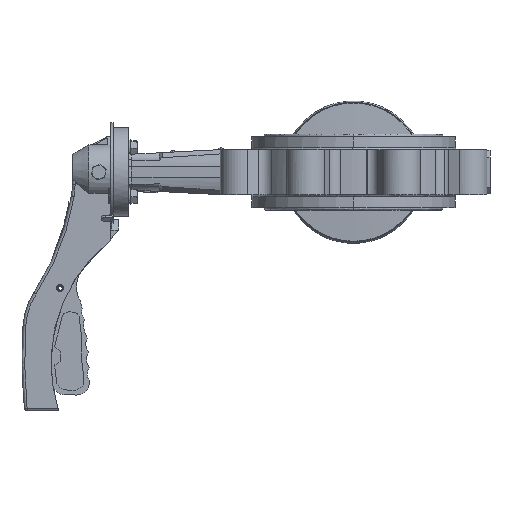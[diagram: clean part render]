
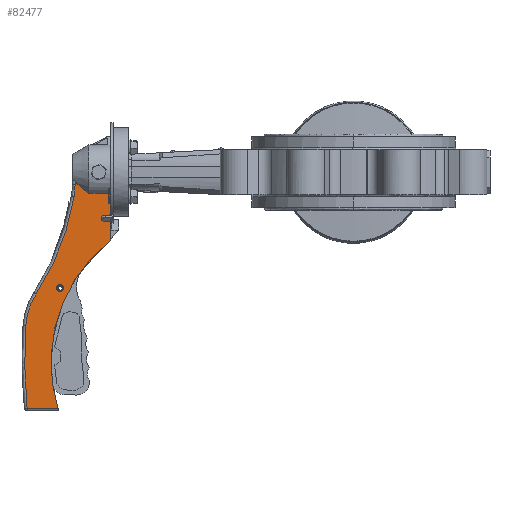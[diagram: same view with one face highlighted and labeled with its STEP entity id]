
A CAD part, left-side view. The second image highlights one B-rep face of the part: STEP entity #82477.
In plain terms, the highlighted planar face has unit normal (-1, 0, 0).
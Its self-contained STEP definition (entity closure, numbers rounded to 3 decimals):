
#241 = CARTESIAN_POINT ( 'NONE',  ( -12.5, 204.004, 0. ) ) ;
#1449 = ORIENTED_EDGE ( 'NONE', *, *, #72360, .F. ) ;
#1905 = CARTESIAN_POINT ( 'NONE',  ( -12.5, 240.187, -112.384 ) ) ;
#4798 = LINE ( 'NONE', #11954, #12901 ) ;
#6781 = DIRECTION ( 'NONE',  ( 0., 0., -1. ) ) ;
#7497 = CARTESIAN_POINT ( 'NONE',  ( -12.5, 204.004, -6.661 ) ) ;
#7648 = CARTESIAN_POINT ( 'NONE',  ( -12.5, 204.004, -12.052 ) ) ;
#7914 = CARTESIAN_POINT ( 'NONE',  ( -12.5, 194., -15.612 ) ) ;
#8056 = AXIS2_PLACEMENT_3D ( 'NONE', #76751, #51981, #57484 ) ;
#9794 = EDGE_CURVE ( 'NONE', #44725, #19528, #31223, .T. ) ;
#10884 = DIRECTION ( 'NONE',  ( -1., 0., 0. ) ) ;
#10993 = CARTESIAN_POINT ( 'NONE',  ( -12.5, 237.05, -96.229 ) ) ;
#11096 = VERTEX_POINT ( 'NONE', #77837 ) ;
#11354 = B_SPLINE_CURVE_WITH_KNOTS ( 'NONE', 3,
 ( #7497, #33170, #40748, #28119, #58824, #33580, #39910, #7914 ),
 .UNSPECIFIED., .F., .F.,
 ( 4, 2, 2, 4 ),
 ( 0., 0.003, 0.007, 0.013 ),
 .UNSPECIFIED. ) ;
#11954 = CARTESIAN_POINT ( 'NONE',  ( -12.5, 178., -173. ) ) ;
#12901 = VECTOR ( 'NONE', #70402, 1000. ) ;
#14479 = EDGE_CURVE ( 'NONE', #40388, #58737, #78111, .T. ) ;
#14755 = EDGE_CURVE ( 'NONE', #48125, #73142, #74120, .T. ) ;
#14857 = CARTESIAN_POINT ( 'NONE',  ( -12.5, 232.529, -89.273 ) ) ;
#15911 =( BOUNDED_CURVE ( )  B_SPLINE_CURVE ( 3, ( #44554, #26860, #76874, #79767 ),
 .UNSPECIFIED., .F., .F. ) 
 B_SPLINE_CURVE_WITH_KNOTS ( ( 4, 4 ),
 ( 0., 1. ),
 .UNSPECIFIED. ) 
 CURVE ( )  GEOMETRIC_REPRESENTATION_ITEM ( )  RATIONAL_B_SPLINE_CURVE ( ( 1., 0.998, 0.998, 1. ) ) 
 REPRESENTATION_ITEM ( '' )  );
#16128 = VERTEX_POINT ( 'NONE', #67394 ) ;
#16702 = ORIENTED_EDGE ( 'NONE', *, *, #26740, .F. ) ;
#17369 = CIRCLE ( 'NONE', #8056, 2.5 ) ;
#17683 = FACE_OUTER_BOUND ( 'NONE', #28092, .T. ) ;
#18938 = LINE ( 'NONE', #32035, #58793 ) ;
#19528 = VERTEX_POINT ( 'NONE', #72600 ) ;
#21761 = CARTESIAN_POINT ( 'NONE',  ( -12.5, 217.51, -85. ) ) ;
#22129 = EDGE_CURVE ( 'NONE', #16128, #34975, #15911, .T. ) ;
#23188 = DIRECTION ( 'NONE',  ( 1., 0., 0. ) ) ;
#24017 = DIRECTION ( 'NONE',  ( 0., -1., 0. ) ) ;
#25788 = VERTEX_POINT ( 'NONE', #70597 ) ;
#26166 = ORIENTED_EDGE ( 'NONE', *, *, #14479, .T. ) ;
#26740 = EDGE_CURVE ( 'NONE', #34975, #44725, #55236, .T. ) ;
#26860 = CARTESIAN_POINT ( 'NONE',  ( -12.5, 241.139, -152.843 ) ) ;
#27963 = ORIENTED_EDGE ( 'NONE', *, *, #14755, .F. ) ;
#28092 = EDGE_LOOP ( 'NONE', ( #50850, #50389, #59736, #69077, #34982, #76105, #16702, #44227, #48184, #26166 ) ) ;
#28119 = CARTESIAN_POINT ( 'NONE',  ( -12.5, 200.932, -9.938 ) ) ;
#28247 = CARTESIAN_POINT ( 'NONE',  ( -12.5, 194., -15.612 ) ) ;
#30961 = EDGE_LOOP ( 'NONE', ( #27963, #1449 ) ) ;
#31223 =( BOUNDED_CURVE ( )  B_SPLINE_CURVE ( 3, ( #45608, #50698, #32983, #43969 ),
 .UNSPECIFIED., .F., .F. ) 
 B_SPLINE_CURVE_WITH_KNOTS ( ( 4, 4 ),
 ( 0., 1. ),
 .UNSPECIFIED. ) 
 CURVE ( )  GEOMETRIC_REPRESENTATION_ITEM ( )  RATIONAL_B_SPLINE_CURVE ( ( 1., 0.986, 0.986, 1. ) ) 
 REPRESENTATION_ITEM ( '' )  );
#32035 = CARTESIAN_POINT ( 'NONE',  ( -12.5, 413.049, -15.612 ) ) ;
#32853 = DIRECTION ( 'NONE',  ( 1., 0., 0. ) ) ;
#32904 = CARTESIAN_POINT ( 'NONE',  ( -12.5, 204.714, -17.741 ) ) ;
#32983 = CARTESIAN_POINT ( 'NONE',  ( -12.5, 208.985, -43.334 ) ) ;
#33170 = CARTESIAN_POINT ( 'NONE',  ( -12.5, 203.293, -7.544 ) ) ;
#33496 = DIRECTION ( 'NONE',  ( 0., 0., 1. ) ) ;
#33580 = CARTESIAN_POINT ( 'NONE',  ( -12.5, 197.565, -12.886 ) ) ;
#34975 = VERTEX_POINT ( 'NONE', #1905 ) ;
#34982 = ORIENTED_EDGE ( 'NONE', *, *, #39985, .F. ) ;
#36668 = CARTESIAN_POINT ( 'NONE',  ( -12.5, 232.529, -89.273 ) ) ;
#37099 = PLANE ( 'NONE',  #39867 ) ;
#38761 = LINE ( 'NONE', #71133, #68197 ) ;
#39867 = AXIS2_PLACEMENT_3D ( 'NONE', #45481, #32853, #44666 ) ;
#39910 = CARTESIAN_POINT ( 'NONE',  ( -12.5, 195.799, -14.268 ) ) ;
#39985 = EDGE_CURVE ( 'NONE', #19528, #11096, #67486, .T. ) ;
#40388 = VERTEX_POINT ( 'NONE', #65790 ) ;
#40748 = CARTESIAN_POINT ( 'NONE',  ( -12.5, 202.526, -8.364 ) ) ;
#43969 = CARTESIAN_POINT ( 'NONE',  ( -12.5, 204.714, -17.741 ) ) ;
#44227 = ORIENTED_EDGE ( 'NONE', *, *, #22129, .F. ) ;
#44554 = CARTESIAN_POINT ( 'NONE',  ( -12.5, 239.189, -173. ) ) ;
#44666 = DIRECTION ( 'NONE',  ( 0., -1., 0. ) ) ;
#44725 = VERTEX_POINT ( 'NONE', #14857 ) ;
#45051 = VERTEX_POINT ( 'NONE', #28247 ) ;
#45481 = CARTESIAN_POINT ( 'NONE',  ( -12.5, 178., 0. ) ) ;
#45608 = CARTESIAN_POINT ( 'NONE',  ( -12.5, 232.529, -89.273 ) ) ;
#47683 = VERTEX_POINT ( 'NONE', #50929 ) ;
#48125 = VERTEX_POINT ( 'NONE', #59628 ) ;
#48184 = ORIENTED_EDGE ( 'NONE', *, *, #55417, .F. ) ;
#50389 = ORIENTED_EDGE ( 'NONE', *, *, #66827, .F. ) ;
#50698 = CARTESIAN_POINT ( 'NONE',  ( -12.5, 218.388, -67.518 ) ) ;
#50850 = ORIENTED_EDGE ( 'NONE', *, *, #83026, .F. ) ;
#50929 = CARTESIAN_POINT ( 'NONE',  ( -12.5, 178., -15.612 ) ) ;
#51981 = DIRECTION ( 'NONE',  ( -1., 0., 0. ) ) ;
#52418 = LINE ( 'NONE', #241, #79535 ) ;
#55236 =( BOUNDED_CURVE ( )  B_SPLINE_CURVE ( 3, ( #56860, #68627, #10993, #36668 ),
 .UNSPECIFIED., .F., .F. ) 
 B_SPLINE_CURVE_WITH_KNOTS ( ( 4, 4 ),
 ( 0., 1. ),
 .UNSPECIFIED. ) 
 CURVE ( )  GEOMETRIC_REPRESENTATION_ITEM ( )  RATIONAL_B_SPLINE_CURVE ( ( 1., 0.978, 0.978, 1. ) ) 
 REPRESENTATION_ITEM ( '' )  );
#55417 = EDGE_CURVE ( 'NONE', #40388, #16128, #4798, .T. ) ;
#56420 = DIRECTION ( 'NONE',  ( 0., -1., 0. ) ) ;
#56860 = CARTESIAN_POINT ( 'NONE',  ( -12.5, 240.187, -112.384 ) ) ;
#57484 = DIRECTION ( 'NONE',  ( 0., -1., 0. ) ) ;
#58556 = CARTESIAN_POINT ( 'NONE',  ( -12.5, 204.241, -14.911 ) ) ;
#58737 = VERTEX_POINT ( 'NONE', #78803 ) ;
#58793 = VECTOR ( 'NONE', #24017, 1000. ) ;
#58824 = CARTESIAN_POINT ( 'NONE',  ( -12.5, 200.104, -10.691 ) ) ;
#58979 = CARTESIAN_POINT ( 'NONE',  ( -12.5, 204.004, -9.182 ) ) ;
#59628 = CARTESIAN_POINT ( 'NONE',  ( -12.5, 212.51, -85. ) ) ;
#59736 = ORIENTED_EDGE ( 'NONE', *, *, #79094, .F. ) ;
#60430 = EDGE_CURVE ( 'NONE', #11096, #25788, #52418, .T. ) ;
#64744 = AXIS2_PLACEMENT_3D ( 'NONE', #81092, #10884, #75206 ) ;
#65790 = CARTESIAN_POINT ( 'NONE',  ( -12.5, 216.638, -173. ) ) ;
#66827 = EDGE_CURVE ( 'NONE', #45051, #47683, #18938, .T. ) ;
#67394 = CARTESIAN_POINT ( 'NONE',  ( -12.5, 239.189, -173. ) ) ;
#67486 =( BOUNDED_CURVE ( )  B_SPLINE_CURVE ( 3, ( #32904, #58556, #7648, #58979 ),
 .UNSPECIFIED., .F., .F. ) 
 B_SPLINE_CURVE_WITH_KNOTS ( ( 4, 4 ),
 ( 0., 1. ),
 .UNSPECIFIED. ) 
 CURVE ( )  GEOMETRIC_REPRESENTATION_ITEM ( )  RATIONAL_B_SPLINE_CURVE ( ( 1., 0.998, 0.998, 1. ) ) 
 REPRESENTATION_ITEM ( '' )  );
#68197 = VECTOR ( 'NONE', #6781, 1000. ) ;
#68627 = CARTESIAN_POINT ( 'NONE',  ( -12.5, 239.66, -104.104 ) ) ;
#69077 = ORIENTED_EDGE ( 'NONE', *, *, #60430, .F. ) ;
#70402 = DIRECTION ( 'NONE',  ( 0., 1., 0. ) ) ;
#70597 = CARTESIAN_POINT ( 'NONE',  ( -12.5, 204.004, -6.661 ) ) ;
#71133 = CARTESIAN_POINT ( 'NONE',  ( -12.5, 178., 0. ) ) ;
#72360 = EDGE_CURVE ( 'NONE', #73142, #48125, #17369, .T. ) ;
#72600 = CARTESIAN_POINT ( 'NONE',  ( -12.5, 204.714, -17.741 ) ) ;
#73142 = VERTEX_POINT ( 'NONE', #21761 ) ;
#74120 = CIRCLE ( 'NONE', #64744, 2.5 ) ;
#74906 = CARTESIAN_POINT ( 'NONE',  ( -12.5, 108.129, -139.517 ) ) ;
#75206 = DIRECTION ( 'NONE',  ( 0., -1., 0. ) ) ;
#75330 = FACE_BOUND ( 'NONE', #30961, .T. ) ;
#76105 = ORIENTED_EDGE ( 'NONE', *, *, #9794, .F. ) ;
#76751 = CARTESIAN_POINT ( 'NONE',  ( -12.5, 215.01, -85. ) ) ;
#76874 = CARTESIAN_POINT ( 'NONE',  ( -12.5, 241.473, -132.594 ) ) ;
#77837 = CARTESIAN_POINT ( 'NONE',  ( -12.5, 204.004, -9.182 ) ) ;
#78051 = AXIS2_PLACEMENT_3D ( 'NONE', #74906, #23188, #56420 ) ;
#78111 = CIRCLE ( 'NONE', #78051, 113.557 ) ;
#78803 = CARTESIAN_POINT ( 'NONE',  ( -12.5, 178., -50. ) ) ;
#79094 = EDGE_CURVE ( 'NONE', #25788, #45051, #11354, .T. ) ;
#79535 = VECTOR ( 'NONE', #33496, 1000. ) ;
#79767 = CARTESIAN_POINT ( 'NONE',  ( -12.5, 240.187, -112.384 ) ) ;
#81092 = CARTESIAN_POINT ( 'NONE',  ( -12.5, 215.01, -85. ) ) ;
#82477 = ADVANCED_FACE ( 'NONE', ( #75330, #17683 ), #37099, .F. ) ;
#83026 = EDGE_CURVE ( 'NONE', #47683, #58737, #38761, .T. ) ;
